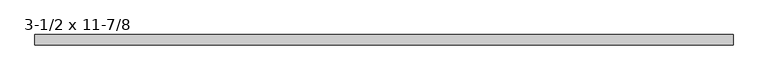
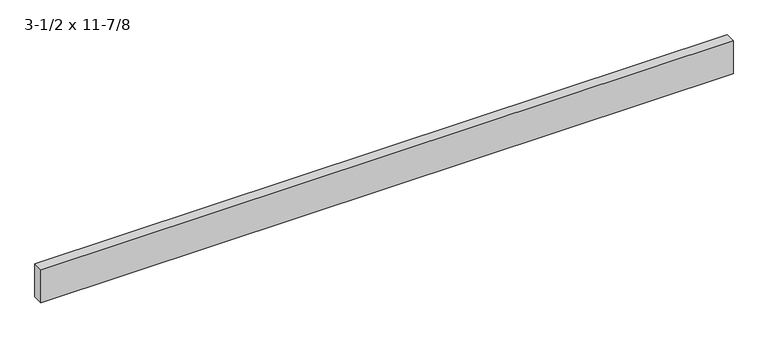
"""IFC4 building model written with IfcOpenShell, lengths in millimetres: beam geometry, Trus Joist - Parallam PSL - Beam Header : 3-1/2 x 11-7/8."""

from ifc_helpers import new_model, si_unit, frame, origin, place, context, project, spatial, polyline, outline, extrude, source, transform, mapped, element, save


def beam_3_1_2_x_11_7_8_2b93f36f(model_context):
    return source(origin(), model_context, "Body", "SweptSolid", [
        extrude(outline(polyline([(2981.325, 44.45), (2981.325, -44.45), (-2981.325, -44.45), (-2981.325, 44.45), (2981.325, 44.45)])), frame((0.0, 0.0, -150.8125), z_axis=(0.0, 0.0, 1.0), x_axis=(1.0, 0.0, 0.0)), (0.0, 0.0, 1.0), 301.625),
    ])


if __name__ == "__main__":
    model = new_model("IFC4")
    model_context = context("Model", 3, world=origin())
    ifc_project = project(units=[si_unit("LENGTHUNIT", "METRE", prefix="MILLI")], contexts=[model_context])
    site = spatial("IfcSite", under=ifc_project)
    building = spatial("IfcBuilding", under=site)
    placement = place(None, origin())
    beam_3_1_2_x_11_7_8_shape = beam_3_1_2_x_11_7_8_2b93f36f(model_context)
    element("IfcBeam", 1, ObjectType="Trus Joist - Parallam PSL - Beam Header : 3-1/2 x 11-7/8", at=placement, inside=building, context=model_context, shape_type="MappedRepresentation", body=[
        mapped(beam_3_1_2_x_11_7_8_shape, transform((0.0, 0.0, 0.0), x_axis=(1.0, 0.0, 0.0), y_axis=(0.0, 1.0, 0.0), z_axis=(0.0, 0.0, 1.0))),
    ])
    save(model, "model.ifc")
